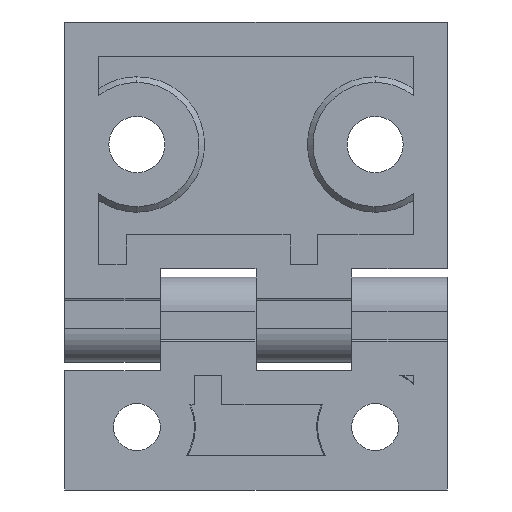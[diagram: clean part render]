
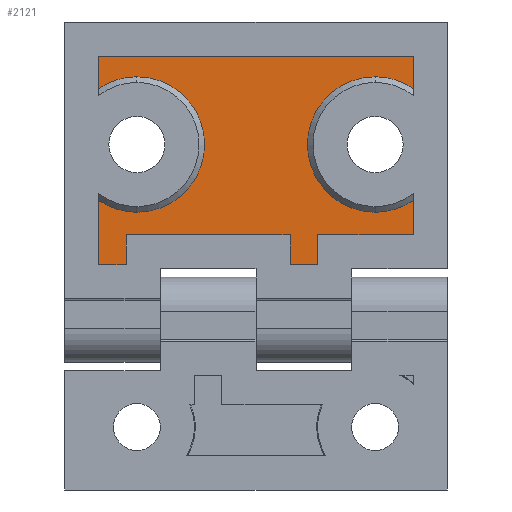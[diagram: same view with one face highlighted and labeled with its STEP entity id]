
A CAD part, front view. The second image highlights one B-rep face of the part: STEP entity #2121.
In plain terms, the highlighted planar face has unit normal (0, -1, 0).
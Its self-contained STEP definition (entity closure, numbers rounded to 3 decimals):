
#69 = CIRCLE ( 'NONE', #1668, 7.957 ) ;
#85 = ORIENTED_EDGE ( 'NONE', *, *, #666, .T. ) ;
#87 = DIRECTION ( 'NONE',  ( 0., 0., -1. ) ) ;
#114 = VECTOR ( 'NONE', #3656, 1000. ) ;
#120 = FACE_OUTER_BOUND ( 'NONE', #360, .T. ) ;
#135 = LINE ( 'NONE', #1535, #1582 ) ;
#162 = AXIS2_PLACEMENT_3D ( 'NONE', #1620, #4105, #2713 ) ;
#175 = EDGE_CURVE ( 'NONE', #2039, #2742, #135, .T. ) ;
#178 = EDGE_CURVE ( 'NONE', #3746, #2901, #3283, .T. ) ;
#208 = VERTEX_POINT ( 'NONE', #862 ) ;
#261 = ORIENTED_EDGE ( 'NONE', *, *, #4215, .T. ) ;
#292 = CARTESIAN_POINT ( 'NONE',  ( -18.5, 2., -33.5 ) ) ;
#309 = VERTEX_POINT ( 'NONE', #1607 ) ;
#345 = LINE ( 'NONE', #638, #2772 ) ;
#360 = EDGE_LOOP ( 'NONE', ( #2281, #3799, #2276, #3524, #3854, #760, #4532, #865, #1641, #85, #2292, #4362, #1817, #261, #2294, #3567, #889, #4521 ) ) ;
#376 = DIRECTION ( 'NONE',  ( -1., 0., 0. ) ) ;
#438 = EDGE_CURVE ( 'NONE', #802, #2439, #458, .T. ) ;
#455 = CARTESIAN_POINT ( 'NONE',  ( 14., 2., -20.6 ) ) ;
#458 = CIRCLE ( 'NONE', #162, 7.957 ) ;
#465 = VECTOR ( 'NONE', #2640, 1000. ) ;
#486 = PLANE ( 'NONE',  #2465 ) ;
#581 = EDGE_CURVE ( 'NONE', #884, #1361, #69, .T. ) ;
#638 = CARTESIAN_POINT ( 'NONE',  ( 22.5, 2., -6.141 ) ) ;
#645 = VERTEX_POINT ( 'NONE', #1334 ) ;
#666 = EDGE_CURVE ( 'NONE', #2439, #884, #2208, .T. ) ;
#681 = DIRECTION ( 'NONE',  ( -1., 0., 0. ) ) ;
#717 = CIRCLE ( 'NONE', #2472, 7.957 ) ;
#732 = LINE ( 'NONE', #1825, #4346 ) ;
#760 = ORIENTED_EDGE ( 'NONE', *, *, #1159, .T. ) ;
#802 = VERTEX_POINT ( 'NONE', #3309 ) ;
#830 = CARTESIAN_POINT ( 'NONE',  ( 22.5, 2., -10. ) ) ;
#849 = CARTESIAN_POINT ( 'NONE',  ( 15.25, 2., -6.141 ) ) ;
#855 = CARTESIAN_POINT ( 'NONE',  ( 22.5, 2., -33.5 ) ) ;
#862 = CARTESIAN_POINT ( 'NONE',  ( 18.5, 2., -14.038 ) ) ;
#865 = ORIENTED_EDGE ( 'NONE', *, *, #1170, .F. ) ;
#884 = VERTEX_POINT ( 'NONE', #3263 ) ;
#889 = ORIENTED_EDGE ( 'NONE', *, *, #3427, .T. ) ;
#893 = EDGE_CURVE ( 'NONE', #309, #645, #2432, .T. ) ;
#915 = VECTOR ( 'NONE', #2433, 1000. ) ;
#996 = AXIS2_PLACEMENT_3D ( 'NONE', #455, #1171, #87 ) ;
#1026 = CARTESIAN_POINT ( 'NONE',  ( 15.25, 2., -33.5 ) ) ;
#1045 = DIRECTION ( 'NONE',  ( 0., 0., 1. ) ) ;
#1061 = VECTOR ( 'NONE', #3277, 1000. ) ;
#1091 = CARTESIAN_POINT ( 'NONE',  ( -18.5, 2., -27.162 ) ) ;
#1129 = DIRECTION ( 'NONE',  ( 0., 1., 0. ) ) ;
#1159 = EDGE_CURVE ( 'NONE', #3067, #3746, #4068, .T. ) ;
#1170 = EDGE_CURVE ( 'NONE', #802, #2901, #1301, .T. ) ;
#1171 = DIRECTION ( 'NONE',  ( 0., 1., 0. ) ) ;
#1186 = AXIS2_PLACEMENT_3D ( 'NONE', #2537, #1129, #1840 ) ;
#1193 = EDGE_CURVE ( 'NONE', #2039, #3067, #345, .T. ) ;
#1291 = AXIS2_PLACEMENT_3D ( 'NONE', #1701, #4570, #2411 ) ;
#1301 = LINE ( 'NONE', #292, #3834 ) ;
#1312 = EDGE_CURVE ( 'NONE', #2634, #4196, #4574, .T. ) ;
#1334 = CARTESIAN_POINT ( 'NONE',  ( 14., 2., -28.557 ) ) ;
#1347 = EDGE_CURVE ( 'NONE', #4196, #2742, #3216, .T. ) ;
#1357 = DIRECTION ( 'NONE',  ( 0., 0., -1. ) ) ;
#1360 = DIRECTION ( 'NONE',  ( 0., 0., -1. ) ) ;
#1361 = VERTEX_POINT ( 'NONE', #1091 ) ;
#1481 = CARTESIAN_POINT ( 'NONE',  ( 22.5, 2., -31. ) ) ;
#1483 = VERTEX_POINT ( 'NONE', #3700 ) ;
#1535 = CARTESIAN_POINT ( 'NONE',  ( -4., 2., -6. ) ) ;
#1539 = CARTESIAN_POINT ( 'NONE',  ( 18.5, 2., -6.141 ) ) ;
#1570 = DIRECTION ( 'NONE',  ( 0., 0., -1. ) ) ;
#1582 = VECTOR ( 'NONE', #4070, 1000. ) ;
#1607 = CARTESIAN_POINT ( 'NONE',  ( 18.5, 2., -27.162 ) ) ;
#1620 = CARTESIAN_POINT ( 'NONE',  ( -14., 2., -20.6 ) ) ;
#1639 = CARTESIAN_POINT ( 'NONE',  ( -7.25, 2., -33.5 ) ) ;
#1641 = ORIENTED_EDGE ( 'NONE', *, *, #438, .T. ) ;
#1668 = AXIS2_PLACEMENT_3D ( 'NONE', #4152, #2355, #1570 ) ;
#1701 = CARTESIAN_POINT ( 'NONE',  ( -14., 2., -20.6 ) ) ;
#1727 = DIRECTION ( 'NONE',  ( -1., 0., 0. ) ) ;
#1736 = VECTOR ( 'NONE', #681, 1000. ) ;
#1786 = LINE ( 'NONE', #2249, #114 ) ;
#1817 = ORIENTED_EDGE ( 'NONE', *, *, #4285, .T. ) ;
#1825 = CARTESIAN_POINT ( 'NONE',  ( 22.5, 2., -6.141 ) ) ;
#1840 = DIRECTION ( 'NONE',  ( 0., 0., -1. ) ) ;
#1871 = EDGE_CURVE ( 'NONE', #2625, #2634, #732, .T. ) ;
#1916 = EDGE_CURVE ( 'NONE', #645, #2897, #2821, .T. ) ;
#2011 = LINE ( 'NONE', #3933, #1061 ) ;
#2024 = CARTESIAN_POINT ( 'NONE',  ( 14., 2., -12.643 ) ) ;
#2039 = VERTEX_POINT ( 'NONE', #4045 ) ;
#2121 = ADVANCED_FACE ( 'NONE', ( #120 ), #486, .T. ) ;
#2173 = CARTESIAN_POINT ( 'NONE',  ( -14., 2., -12.643 ) ) ;
#2208 = CIRCLE ( 'NONE', #1291, 7.957 ) ;
#2249 = CARTESIAN_POINT ( 'NONE',  ( 18.5, 2., -33.5 ) ) ;
#2276 = ORIENTED_EDGE ( 'NONE', *, *, #1347, .T. ) ;
#2281 = ORIENTED_EDGE ( 'NONE', *, *, #1871, .T. ) ;
#2292 = ORIENTED_EDGE ( 'NONE', *, *, #581, .T. ) ;
#2294 = ORIENTED_EDGE ( 'NONE', *, *, #893, .T. ) ;
#2355 = DIRECTION ( 'NONE',  ( 0., 1., 0. ) ) ;
#2371 = VECTOR ( 'NONE', #4654, 1000. ) ;
#2404 = CARTESIAN_POINT ( 'NONE',  ( -18.5, 2., -10. ) ) ;
#2411 = DIRECTION ( 'NONE',  ( 0., 0., -1. ) ) ;
#2432 = CIRCLE ( 'NONE', #1186, 7.957 ) ;
#2433 = DIRECTION ( 'NONE',  ( 0., 0., -1. ) ) ;
#2439 = VERTEX_POINT ( 'NONE', #2173 ) ;
#2465 = AXIS2_PLACEMENT_3D ( 'NONE', #855, #3019, #4505 ) ;
#2472 = AXIS2_PLACEMENT_3D ( 'NONE', #3856, #3153, #1360 ) ;
#2477 = LINE ( 'NONE', #3204, #2371 ) ;
#2509 = CARTESIAN_POINT ( 'NONE',  ( -7.25, 2., -10. ) ) ;
#2537 = CARTESIAN_POINT ( 'NONE',  ( 14., 2., -20.6 ) ) ;
#2575 = EDGE_CURVE ( 'NONE', #208, #2625, #1786, .T. ) ;
#2625 = VERTEX_POINT ( 'NONE', #1539 ) ;
#2630 = DIRECTION ( 'NONE',  ( 1., 0., 0. ) ) ;
#2634 = VERTEX_POINT ( 'NONE', #849 ) ;
#2640 = DIRECTION ( 'NONE',  ( -1., 0., 0. ) ) ;
#2713 = DIRECTION ( 'NONE',  ( 0., 0., -1. ) ) ;
#2714 = LINE ( 'NONE', #1481, #3831 ) ;
#2742 = VERTEX_POINT ( 'NONE', #3059 ) ;
#2772 = VECTOR ( 'NONE', #1727, 1000. ) ;
#2821 = CIRCLE ( 'NONE', #996, 7.957 ) ;
#2897 = VERTEX_POINT ( 'NONE', #2024 ) ;
#2901 = VERTEX_POINT ( 'NONE', #2404 ) ;
#3019 = DIRECTION ( 'NONE',  ( 0., -1., 0. ) ) ;
#3059 = CARTESIAN_POINT ( 'NONE',  ( -4., 2., -10. ) ) ;
#3067 = VERTEX_POINT ( 'NONE', #3199 ) ;
#3153 = DIRECTION ( 'NONE',  ( 0., 1., 0. ) ) ;
#3199 = CARTESIAN_POINT ( 'NONE',  ( -7.25, 2., -6.141 ) ) ;
#3204 = CARTESIAN_POINT ( 'NONE',  ( -18.5, 2., -33.5 ) ) ;
#3216 = LINE ( 'NONE', #3243, #1736 ) ;
#3243 = CARTESIAN_POINT ( 'NONE',  ( 22.5, 2., -10. ) ) ;
#3263 = CARTESIAN_POINT ( 'NONE',  ( -14., 2., -28.557 ) ) ;
#3277 = DIRECTION ( 'NONE',  ( 0., 0., 1. ) ) ;
#3283 = LINE ( 'NONE', #830, #465 ) ;
#3309 = CARTESIAN_POINT ( 'NONE',  ( -18.5, 2., -14.038 ) ) ;
#3355 = CARTESIAN_POINT ( 'NONE',  ( 18.5, 2., -31. ) ) ;
#3427 = EDGE_CURVE ( 'NONE', #2897, #208, #717, .T. ) ;
#3524 = ORIENTED_EDGE ( 'NONE', *, *, #175, .F. ) ;
#3566 = CARTESIAN_POINT ( 'NONE',  ( 15.25, 2., -10. ) ) ;
#3567 = ORIENTED_EDGE ( 'NONE', *, *, #1916, .T. ) ;
#3656 = DIRECTION ( 'NONE',  ( 0., 0., 1. ) ) ;
#3700 = CARTESIAN_POINT ( 'NONE',  ( -18.5, 2., -31. ) ) ;
#3746 = VERTEX_POINT ( 'NONE', #2509 ) ;
#3799 = ORIENTED_EDGE ( 'NONE', *, *, #1312, .T. ) ;
#3831 = VECTOR ( 'NONE', #2630, 1000. ) ;
#3834 = VECTOR ( 'NONE', #1045, 1000. ) ;
#3854 = ORIENTED_EDGE ( 'NONE', *, *, #1193, .T. ) ;
#3856 = CARTESIAN_POINT ( 'NONE',  ( 14., 2., -20.6 ) ) ;
#3933 = CARTESIAN_POINT ( 'NONE',  ( 18.5, 2., -33.5 ) ) ;
#3953 = VECTOR ( 'NONE', #1357, 1000. ) ;
#4045 = CARTESIAN_POINT ( 'NONE',  ( -4., 2., -6.141 ) ) ;
#4068 = LINE ( 'NONE', #1639, #3953 ) ;
#4070 = DIRECTION ( 'NONE',  ( 0., 0., -1. ) ) ;
#4105 = DIRECTION ( 'NONE',  ( 0., 1., 0. ) ) ;
#4152 = CARTESIAN_POINT ( 'NONE',  ( -14., 2., -20.6 ) ) ;
#4196 = VERTEX_POINT ( 'NONE', #3566 ) ;
#4215 = EDGE_CURVE ( 'NONE', #4298, #309, #2011, .T. ) ;
#4285 = EDGE_CURVE ( 'NONE', #1483, #4298, #2714, .T. ) ;
#4298 = VERTEX_POINT ( 'NONE', #3355 ) ;
#4346 = VECTOR ( 'NONE', #376, 1000. ) ;
#4362 = ORIENTED_EDGE ( 'NONE', *, *, #4657, .F. ) ;
#4505 = DIRECTION ( 'NONE',  ( 0., 0., -1. ) ) ;
#4521 = ORIENTED_EDGE ( 'NONE', *, *, #2575, .T. ) ;
#4532 = ORIENTED_EDGE ( 'NONE', *, *, #178, .T. ) ;
#4570 = DIRECTION ( 'NONE',  ( 0., 1., 0. ) ) ;
#4574 = LINE ( 'NONE', #1026, #915 ) ;
#4654 = DIRECTION ( 'NONE',  ( 0., 0., 1. ) ) ;
#4657 = EDGE_CURVE ( 'NONE', #1483, #1361, #2477, .T. ) ;
